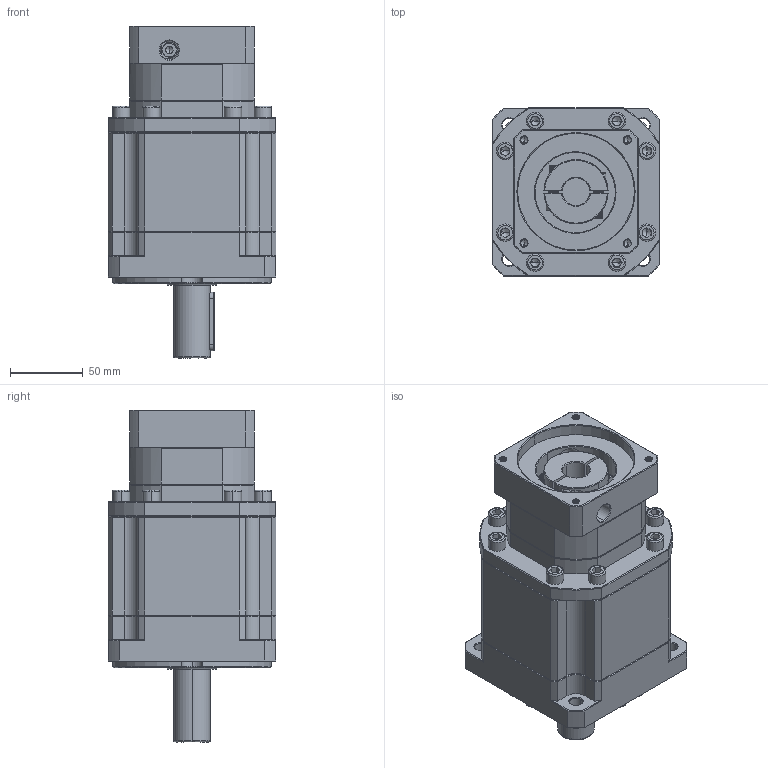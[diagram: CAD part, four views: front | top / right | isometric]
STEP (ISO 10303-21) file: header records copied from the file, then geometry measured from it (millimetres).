
FILE_DESCRIPTION (( 'STEP AP214' ), '1' );
FILE_NAME ('ZB115A-D25-L3-P2-19-80-100-M6.step', '2023-08-26T10:00:58', ( '' ), ( '' ), 'SwSTEP 2.0', 'SolidWorks 2016', '' );
FILE_SCHEMA (( 'AUTOMOTIVE_DESIGN' ));
Length unit declared in the file: millimetre
Products named in the file (1): ZB115A-D25-L3-P2-19-80-100-M6
Bounding box: 115 x 115 x 227.5 mm (x, y, z)
Volume: 1679399.4 mm3; surface area: 145532.1 mm2
Topology: 5 solids, 6 shells, 2412 faces, 6325 edges, 4015 vertices
Faces by surface type: plane 1190, bspline 427, cylinder 425, cone 355, torus 15
Entity records: 128222 total; most frequent: CARTESIAN_POINT 45943, ORIENTED_EDGE 12574, DIRECTION 9947, EDGE_CURVE 6287, LINE 4039, VECTOR 4039, VERTEX_POINT 4015, AXIS2_PLACEMENT_3D 2954
